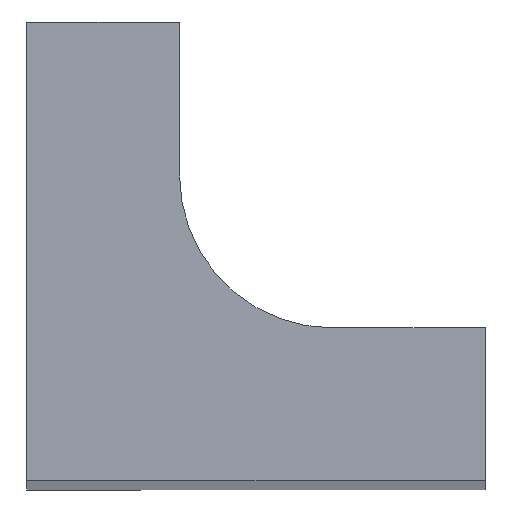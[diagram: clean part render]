
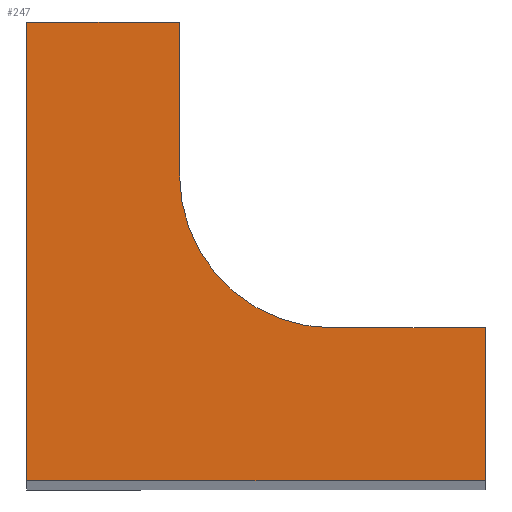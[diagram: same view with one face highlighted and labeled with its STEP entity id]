
A CAD part, top view. The second image highlights one B-rep face of the part: STEP entity #247.
In plain terms, the highlighted planar face has unit normal (0, 0, 1).
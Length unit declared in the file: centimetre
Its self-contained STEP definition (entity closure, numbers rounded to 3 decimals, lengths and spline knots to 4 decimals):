
#104=CIRCLE('',#253,0.3175);
#107=VERTEX_POINT('',#295);
#108=VERTEX_POINT('',#296);
#111=VERTEX_POINT('',#304);
#113=VERTEX_POINT('',#310);
#115=VERTEX_POINT('',#316);
#117=VERTEX_POINT('',#322);
#119=VERTEX_POINT('',#328);
#121=VECTOR('',#261,1.);
#125=VECTOR('',#266,1.);
#128=VECTOR('',#270,1.);
#132=VECTOR('',#281,1.);
#135=VECTOR('',#285,1.);
#138=VECTOR('',#289,1.);
#140=LINE('',#294,#121);
#144=LINE('',#303,#125);
#147=LINE('',#309,#128);
#151=LINE('',#321,#132);
#154=LINE('',#327,#135);
#157=LINE('',#333,#138);
#159=EDGE_CURVE('',#107,#108,#140,.T.);
#163=EDGE_CURVE('',#108,#111,#144,.T.);
#166=EDGE_CURVE('',#111,#113,#147,.T.);
#169=EDGE_CURVE('',#113,#115,#104,.T.);
#172=EDGE_CURVE('',#115,#117,#151,.T.);
#175=EDGE_CURVE('',#117,#119,#154,.T.);
#178=EDGE_CURVE('',#119,#107,#157,.T.);
#208=ORIENTED_EDGE('',*,*,#159,.F.);
#209=ORIENTED_EDGE('',*,*,#178,.F.);
#210=ORIENTED_EDGE('',*,*,#175,.F.);
#211=ORIENTED_EDGE('',*,*,#172,.F.);
#212=ORIENTED_EDGE('',*,*,#169,.F.);
#213=ORIENTED_EDGE('',*,*,#166,.F.);
#214=ORIENTED_EDGE('',*,*,#163,.F.);
#229=EDGE_LOOP('',(#208,#209,#210,#211,#212,#213,#214));
#238=FACE_BOUND('',#229,.T.);
#247=ADVANCED_FACE('',(#238),#343,.T.);
#253=AXIS2_PLACEMENT_3D('',#315,#275,#276);
#258=AXIS2_PLACEMENT_3D('',#335,#291,$);
#261=DIRECTION('',(0.,1.,0.));
#266=DIRECTION('',(1.,0.,0.));
#270=DIRECTION('',(0.,-1.,0.));
#275=DIRECTION('',(0.,0.,1.));
#276=DIRECTION('',(0.318,0.,0.));
#281=DIRECTION('',(1.,0.,0.));
#285=DIRECTION('',(0.,-1.,0.));
#289=DIRECTION('',(-1.,0.,0.));
#291=DIRECTION('',(0.,0.,1.));
#294=CARTESIAN_POINT('',(0.,0.9525,10.795));
#295=CARTESIAN_POINT('',(0.,0.,10.795));
#296=CARTESIAN_POINT('',(0.,0.9525,10.795));
#303=CARTESIAN_POINT('',(0.3175,0.9525,10.795));
#304=CARTESIAN_POINT('',(0.3175,0.9525,10.795));
#309=CARTESIAN_POINT('',(0.3175,0.635,10.795));
#310=CARTESIAN_POINT('',(0.3175,0.635,10.795));
#315=CARTESIAN_POINT('',(0.635,0.635,10.795));
#316=CARTESIAN_POINT('',(0.635,0.3175,10.795));
#321=CARTESIAN_POINT('',(0.9525,0.3175,10.795));
#322=CARTESIAN_POINT('',(0.9525,0.3175,10.795));
#327=CARTESIAN_POINT('',(0.9525,0.,10.795));
#328=CARTESIAN_POINT('',(0.9525,0.,10.795));
#333=CARTESIAN_POINT('',(0.,0.,10.795));
#335=CARTESIAN_POINT('',(0.3749,0.3749,10.795));
#343=PLANE('',#258);
